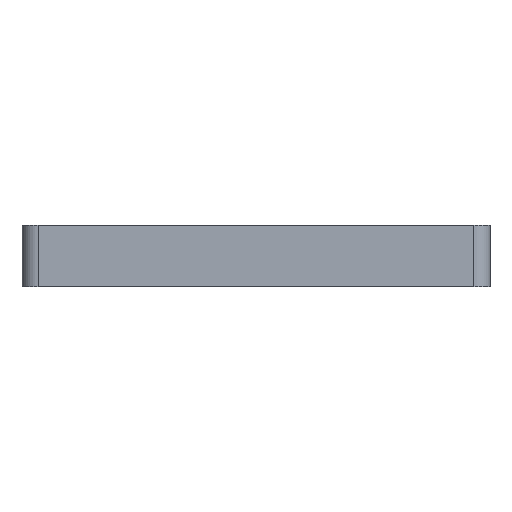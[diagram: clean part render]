
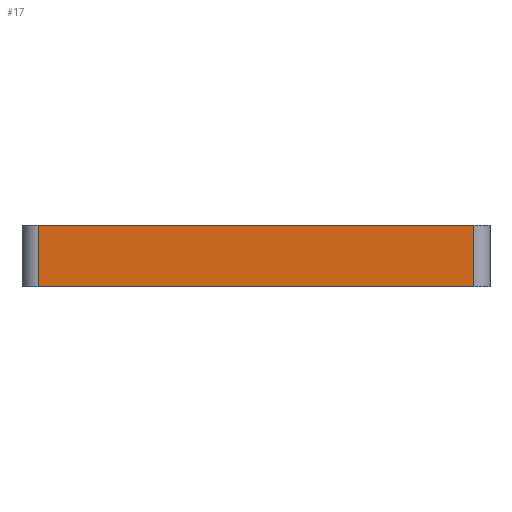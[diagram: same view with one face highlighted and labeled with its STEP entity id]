
A CAD part, left-side view. The second image highlights one B-rep face of the part: STEP entity #17.
In plain terms, the highlighted planar face has unit normal (-1, 0, 0).
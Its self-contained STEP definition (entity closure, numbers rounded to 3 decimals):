
#17 = ADVANCED_FACE('',(#18),#52,.F.);
#18 = FACE_BOUND('',#19,.F.);
#19 = EDGE_LOOP('',(#20,#30,#38,#46));
#20 = ORIENTED_EDGE('',*,*,#21,.F.);
#21 = EDGE_CURVE('',#22,#24,#26,.T.);
#22 = VERTEX_POINT('',#23);
#23 = CARTESIAN_POINT('',(-72.,25.,35.));
#24 = VERTEX_POINT('',#25);
#25 = CARTESIAN_POINT('',(-72.,159.,35.));
#26 = LINE('',#27,#28);
#27 = CARTESIAN_POINT('',(-72.,20.,35.));
#28 = VECTOR('',#29,1.);
#29 = DIRECTION('',(0.,1.,0.));
#30 = ORIENTED_EDGE('',*,*,#31,.F.);
#31 = EDGE_CURVE('',#32,#22,#34,.T.);
#32 = VERTEX_POINT('',#33);
#33 = CARTESIAN_POINT('',(-72.,25.,16.));
#34 = LINE('',#35,#36);
#35 = CARTESIAN_POINT('',(-72.,25.,16.));
#36 = VECTOR('',#37,1.);
#37 = DIRECTION('',(0.,0.,1.));
#38 = ORIENTED_EDGE('',*,*,#39,.T.);
#39 = EDGE_CURVE('',#32,#40,#42,.T.);
#40 = VERTEX_POINT('',#41);
#41 = CARTESIAN_POINT('',(-72.,159.,16.));
#42 = LINE('',#43,#44);
#43 = CARTESIAN_POINT('',(-72.,20.,16.));
#44 = VECTOR('',#45,1.);
#45 = DIRECTION('',(0.,1.,0.));
#46 = ORIENTED_EDGE('',*,*,#47,.T.);
#47 = EDGE_CURVE('',#40,#24,#48,.T.);
#48 = LINE('',#49,#50);
#49 = CARTESIAN_POINT('',(-72.,159.,16.));
#50 = VECTOR('',#51,1.);
#51 = DIRECTION('',(0.,0.,1.));
#52 = PLANE('',#53);
#53 = AXIS2_PLACEMENT_3D('',#54,#55,#56);
#54 = CARTESIAN_POINT('',(-72.,20.,16.));
#55 = DIRECTION('',(1.,0.,0.));
#56 = DIRECTION('',(0.,0.,1.));
